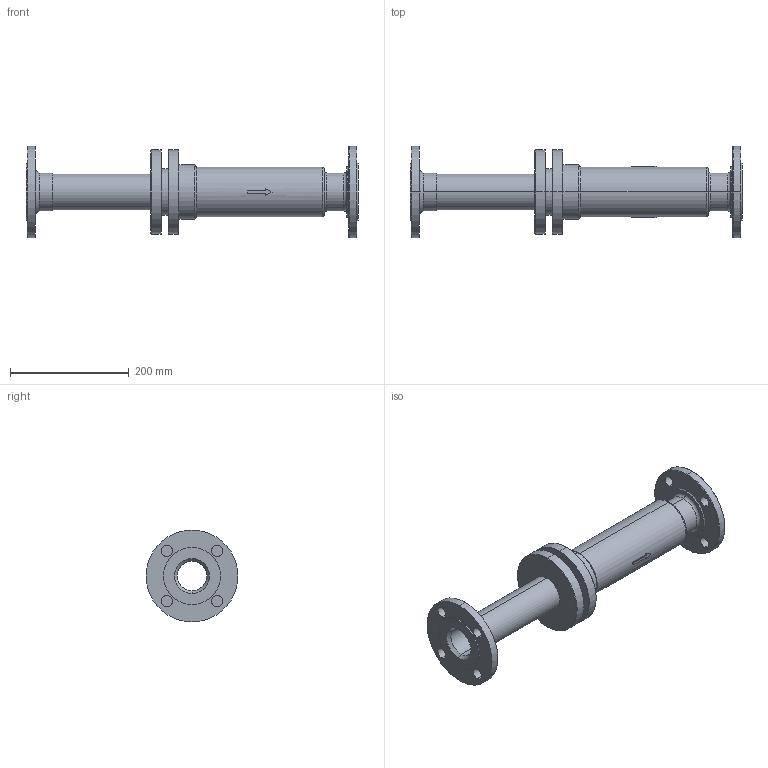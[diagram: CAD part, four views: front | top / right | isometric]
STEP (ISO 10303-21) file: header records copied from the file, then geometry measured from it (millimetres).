
FILE_DESCRIPTION( (''), '2;1');
FILE_NAME ('PC1027.9516.ES-10-200 50A_25324.stp','2025-07-30T14:30:59',(''),(''),'spGate 20.6.3 (****-****-****-****)','','');
FILE_SCHEMA (('AUTOMOTIVE_DESIGN'));
Length unit declared in the file: millimetre
Bounding box: 560 x 155 x 155 mm (x, y, z)
Volume: 2154423.9 mm3; surface area: 343321.6 mm2
Topology: 1 solids, 1 shells, 108 faces, 246 edges, 154 vertices
Faces by surface type: cylinder 44, bspline 34, plane 30
Entity records: 5447 total; most frequent: CARTESIAN_POINT 1128, ORIENTED_EDGE 492, DIRECTION 444, COLOUR_RGB 355, PRESENTATION_STYLE_ASSIGNMENT 355, STYLED_ITEM 355, EDGE_CURVE 246, DRAUGHTING_PRE_DEFINED_CURVE_FONT 246
